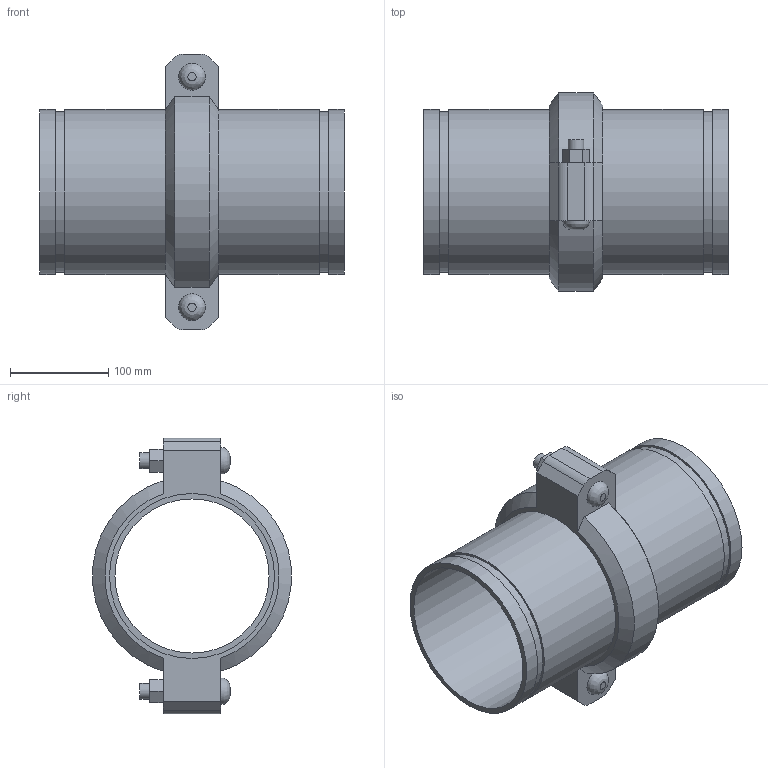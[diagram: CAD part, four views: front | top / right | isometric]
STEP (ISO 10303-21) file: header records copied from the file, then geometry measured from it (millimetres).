
FILE_DESCRIPTION(/* description */ ('VIC SS EXPANSION JOINT 1 COUPLING EXPANDED STYLE 155P (OGS) (POTABLE WATER) ','CAx-IF Rec.Pracs.---Representation and Presentation of Product Manufacturing Information (PMI)---4.0---2014-10-13'),/* implementation_level */ '2;1');
FILE_NAME(/* name */ 'C:\Users\kkamble\AppData\Roaming\Autodesk\ApplicationPlugins\Victaulic.Temp\A607\Victaulic_SS_Expansion Joint_Expanded_1 Coupling_Style 155P (OGS)-Potable Water_1 Coup_Expd_6 (150).stp',/* time_stamp */ '2021-07-16T16:43:42+05:00',/* author */ ('kkamble'),/* organization */ ('Victaulic'),/* preprocessor_version */ 'ST-DEVELOPER v17.2',/* originating_system */ 'Autodesk Inventor 2019',/* authorisation */ '');
FILE_SCHEMA (('AP242_MANAGED_MODEL_BASED_3D_ENGINEERING_MIM_LF { 1 0 10303 442 1 1 4 }'));
Length unit declared in the file: inch
Products named in the file (3): 155P-06.0; Nipple-06.0; 075-06.0
Assembly tree (3 placements, depth 2):
  155P-06.0
    Nipple-06.0  x2
    075-06.0
Bounding box: 310.39 x 202.46 x 281.18 mm (x, y, z)
Volume: 1585305.5 mm3; surface area: 447014.9 mm2
Topology: 3 solids, 5 shells, 81 faces, 193 edges, 138 vertices
Faces by surface type: plane 48, cylinder 27, cone 4, bspline 2
Full cylindrical faces by diameter (mm): 15.875 x4, 17.424 x2, 157.15 x2, 161.925 x1, 163.957 x4, 168.275 x8
Entity records: 2292 total; most frequent: CARTESIAN_POINT 420, DIRECTION 369, ORIENTED_EDGE 326, EDGE_CURVE 163, AXIS2_PLACEMENT_3D 141, VERTEX_POINT 114, EDGE_LOOP 89, LINE 87
